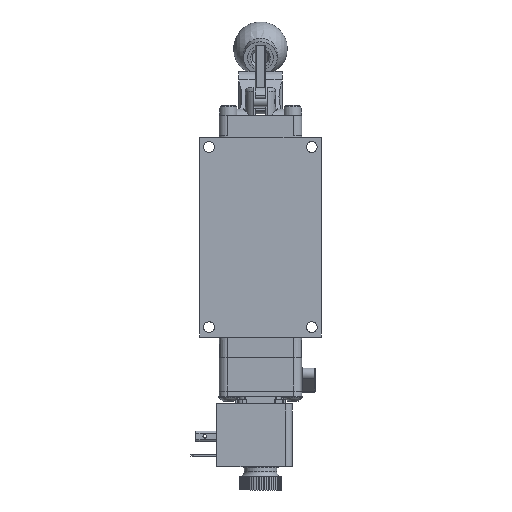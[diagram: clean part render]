
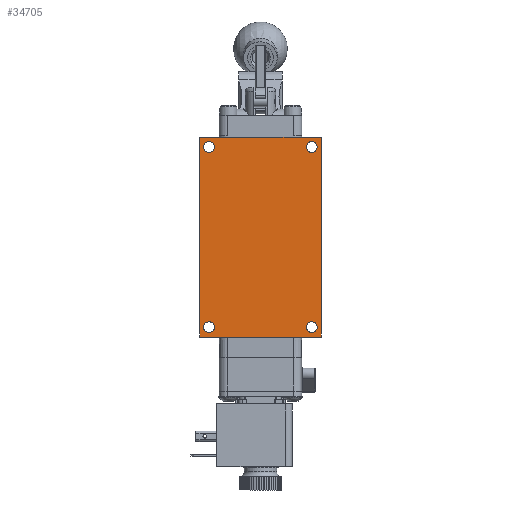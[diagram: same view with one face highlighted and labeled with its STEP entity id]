
A CAD part, front view. The second image highlights one B-rep face of the part: STEP entity #34705.
In plain terms, the highlighted planar face has unit normal (0, -1, 0).
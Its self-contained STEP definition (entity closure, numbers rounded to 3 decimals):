
#1375=FACE_BOUND('',#4782,.T.);
#1376=FACE_BOUND('',#4783,.T.);
#1377=FACE_BOUND('',#4784,.T.);
#1378=FACE_BOUND('',#4785,.T.);
#1731=PLANE('',#36998);
#2750=FACE_OUTER_BOUND('',#4781,.T.);
#4781=EDGE_LOOP('',(#23227,#23228,#23229,#23230));
#4782=EDGE_LOOP('',(#23231));
#4783=EDGE_LOOP('',(#23232));
#4784=EDGE_LOOP('',(#23233));
#4785=EDGE_LOOP('',(#23234));
#6962=CIRCLE('',#36999,0.258);
#6963=CIRCLE('',#37000,0.258);
#6964=CIRCLE('',#37001,0.258);
#6965=CIRCLE('',#37002,0.258);
#8776=LINE('',#51282,#11369);
#8884=LINE('',#51732,#11477);
#8885=LINE('',#51734,#11478);
#8886=LINE('',#51735,#11479);
#11369=VECTOR('',#41234,1.);
#11477=VECTOR('',#41574,1.);
#11478=VECTOR('',#41575,1.);
#11479=VECTOR('',#41576,1.);
#14017=VERTEX_POINT('',#51279);
#14018=VERTEX_POINT('',#51281);
#14136=VERTEX_POINT('',#51731);
#14137=VERTEX_POINT('',#51733);
#14138=VERTEX_POINT('',#51736);
#14139=VERTEX_POINT('',#51738);
#14140=VERTEX_POINT('',#51740);
#14141=VERTEX_POINT('',#51742);
#17443=EDGE_CURVE('',#14017,#14018,#8776,.T.);
#17608=EDGE_CURVE('',#14136,#14017,#8884,.T.);
#17609=EDGE_CURVE('',#14137,#14136,#8885,.T.);
#17610=EDGE_CURVE('',#14018,#14137,#8886,.T.);
#17611=EDGE_CURVE('',#14138,#14138,#6962,.T.);
#17612=EDGE_CURVE('',#14139,#14139,#6963,.T.);
#17613=EDGE_CURVE('',#14140,#14140,#6964,.T.);
#17614=EDGE_CURVE('',#14141,#14141,#6965,.T.);
#23227=ORIENTED_EDGE('',*,*,#17608,.F.);
#23228=ORIENTED_EDGE('',*,*,#17609,.F.);
#23229=ORIENTED_EDGE('',*,*,#17610,.F.);
#23230=ORIENTED_EDGE('',*,*,#17443,.F.);
#23231=ORIENTED_EDGE('',*,*,#17611,.T.);
#23232=ORIENTED_EDGE('',*,*,#17612,.T.);
#23233=ORIENTED_EDGE('',*,*,#17613,.T.);
#23234=ORIENTED_EDGE('',*,*,#17614,.T.);
#34705=ADVANCED_FACE('',(#2750,#1375,#1376,#1377,#1378),#1731,.F.);
#36998=AXIS2_PLACEMENT_3D('',#51730,#41572,#41573);
#36999=AXIS2_PLACEMENT_3D('',#51737,#41577,#41578);
#37000=AXIS2_PLACEMENT_3D('',#51739,#41579,#41580);
#37001=AXIS2_PLACEMENT_3D('',#51741,#41581,#41582);
#37002=AXIS2_PLACEMENT_3D('',#51743,#41583,#41584);
#41234=DIRECTION('',(1.,0.,0.));
#41572=DIRECTION('center_axis',(0.,1.,0.));
#41573=DIRECTION('ref_axis',(0.,0.,1.));
#41574=DIRECTION('',(0.,0.,1.));
#41575=DIRECTION('',(-1.,0.,0.));
#41576=DIRECTION('',(0.,0.,-1.));
#41577=DIRECTION('center_axis',(0.,1.,0.));
#41578=DIRECTION('ref_axis',(-1.,0.,0.));
#41579=DIRECTION('center_axis',(0.,1.,0.));
#41580=DIRECTION('ref_axis',(-1.,0.,0.));
#41581=DIRECTION('center_axis',(0.,1.,0.));
#41582=DIRECTION('ref_axis',(-1.,0.,0.));
#41583=DIRECTION('center_axis',(0.,1.,0.));
#41584=DIRECTION('ref_axis',(-1.,0.,0.));
#51279=CARTESIAN_POINT('',(-2.858,-1.636,4.71));
#51281=CARTESIAN_POINT('',(2.858,-1.636,4.71));
#51282=CARTESIAN_POINT('',(-2.858,-1.636,4.71));
#51730=CARTESIAN_POINT('Origin',(0.,-1.636,0.));
#51731=CARTESIAN_POINT('',(-2.858,-1.636,-4.71));
#51732=CARTESIAN_POINT('',(-2.858,-1.636,-4.71));
#51733=CARTESIAN_POINT('',(2.858,-1.636,-4.71));
#51734=CARTESIAN_POINT('',(2.858,-1.636,-4.71));
#51735=CARTESIAN_POINT('',(2.858,-1.636,4.71));
#51736=CARTESIAN_POINT('',(-2.163,-1.636,-4.247));
#51737=CARTESIAN_POINT('Origin',(-2.421,-1.636,-4.247));
#51738=CARTESIAN_POINT('',(-2.163,-1.636,4.247));
#51739=CARTESIAN_POINT('Origin',(-2.421,-1.636,4.247));
#51740=CARTESIAN_POINT('',(2.678,-1.636,-4.247));
#51741=CARTESIAN_POINT('Origin',(2.421,-1.636,-4.247));
#51742=CARTESIAN_POINT('',(2.678,-1.636,4.247));
#51743=CARTESIAN_POINT('Origin',(2.421,-1.636,4.247));
